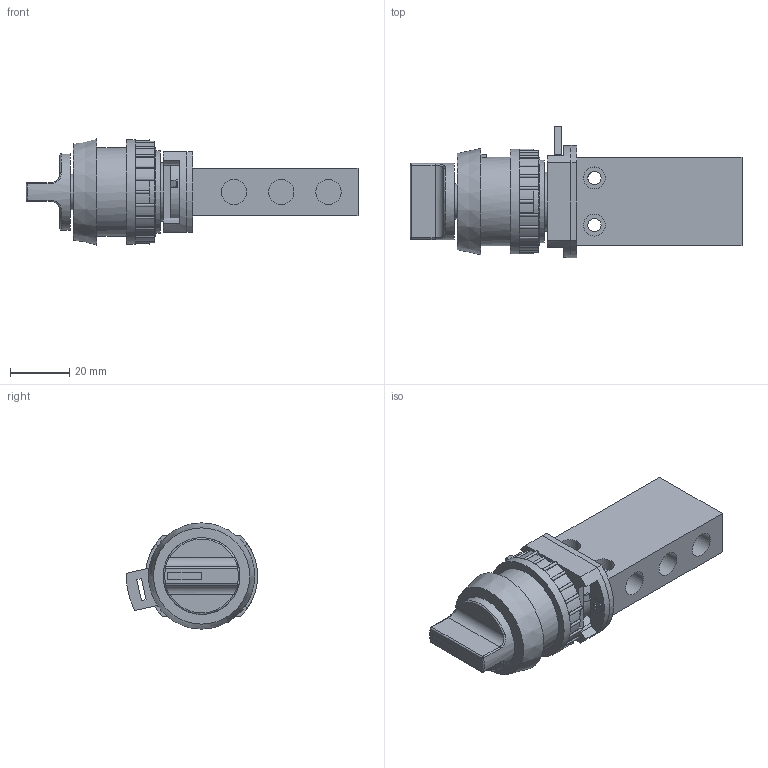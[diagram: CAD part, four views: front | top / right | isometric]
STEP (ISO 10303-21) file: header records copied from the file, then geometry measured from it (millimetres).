
FILE_DESCRIPTION (( 'STEP AP214' ), '1' );
FILE_NAME ('18-T-30-013---T-28-511_Airtec.step', '2018-11-15T12:46:43', ( '' ), ( '' ), 'SwSTEP 2.0', 'SolidWorks 2010', '' );
FILE_SCHEMA (( 'AUTOMOTIVE_DESIGN' ));
Length unit declared in the file: millimetre
Products named in the file (3): 18-T-30-013-Airtec; T-28-511_161115; 18-T-30-013---T-28-511_Airtec
Assembly tree (2 placements, depth 2):
  18-T-30-013---T-28-511_Airtec
    T-28-511_161115
    18-T-30-013-Airtec
Bounding box: 112.5 x 44.48 x 36 mm (x, y, z)
Volume: 59402.8 mm3; surface area: 20687.8 mm2
Topology: 2 solids, 2 shells, 477 faces, 1250 edges, 798 vertices
Faces by surface type: plane 227, cylinder 174, cone 48, torus 16, bspline 12
Full cylindrical faces by diameter (mm): 2.013 x1, 2.459 x4, 2.693 x2, 3 x1, 3.2 x2, 4.5 x2, 4.7 x1, 5.5 x3, 5.7 x2, 6 x1, 7.4 x4, 8.566 x5, 10 x1, 10.5 x1, 12 x1, 16 x1, 20 x1, 20.3 x1, 26 x1, 28 x1, 30 x2, 35.5 x1
Entity records: 15403 total; most frequent: CARTESIAN_POINT 3736, DIRECTION 2526, ORIENTED_EDGE 2334, EDGE_CURVE 1167, AXIS2_PLACEMENT_3D 991, VERTEX_POINT 778, EDGE_LOOP 575, LINE 544
